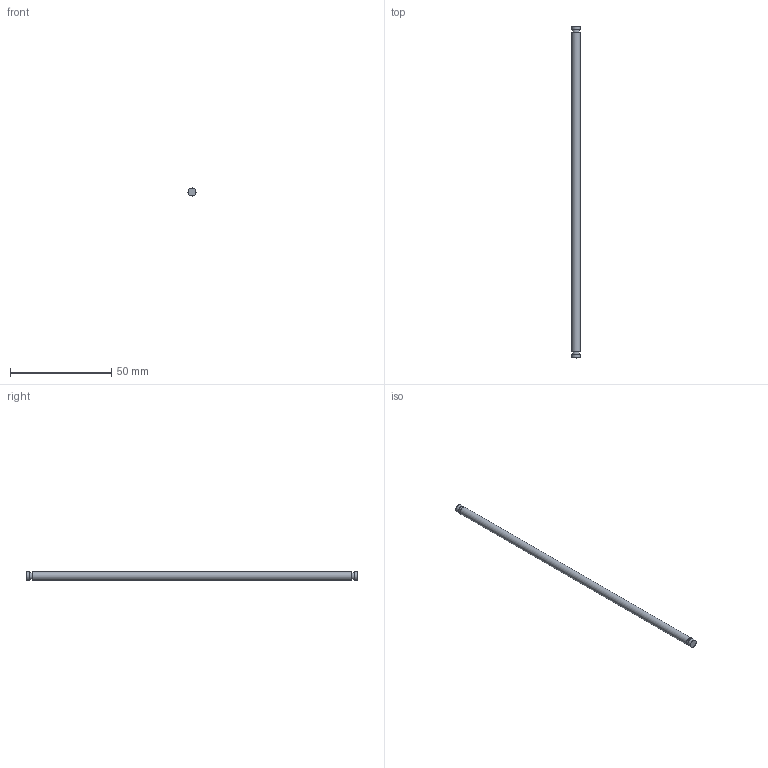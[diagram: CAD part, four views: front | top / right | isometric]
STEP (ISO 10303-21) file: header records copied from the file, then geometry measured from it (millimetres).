
FILE_DESCRIPTION(('Open CASCADE Model'),'2;1');
FILE_NAME('SCZ-SHT','2026-11-15T22:39:11',('Author'),('Open CASCADE'), 'Open CASCADE STEP processor 8.0','build123d','Unknown');
FILE_SCHEMA(('AUTOMOTIVE_DESIGN { 1 0 10303 214 1 1 1 1 }'));
Length unit declared in the file: millimetre
Products named in the file (1): SCZ-SHT
Bounding box: 4 x 164 x 4 mm (x, y, z)
Volume: 2052.5 mm3; surface area: 2095.4 mm2
Topology: 1 solids, 1 shells, 11 faces, 15 edges, 10 vertices
Faces by surface type: plane 6, cylinder 5
Full cylindrical faces by diameter (mm): 3.4 x2, 4 x3
Entity records: 444 total; most frequent: DIRECTION 79, CARTESIAN_POINT 67, ORIENTED_EDGE 30, PCURVE 30, DEFINITIONAL_REPRESENTATION 30, LINE 25, VECTOR 25, AXIS2_PLACEMENT_3D 22
